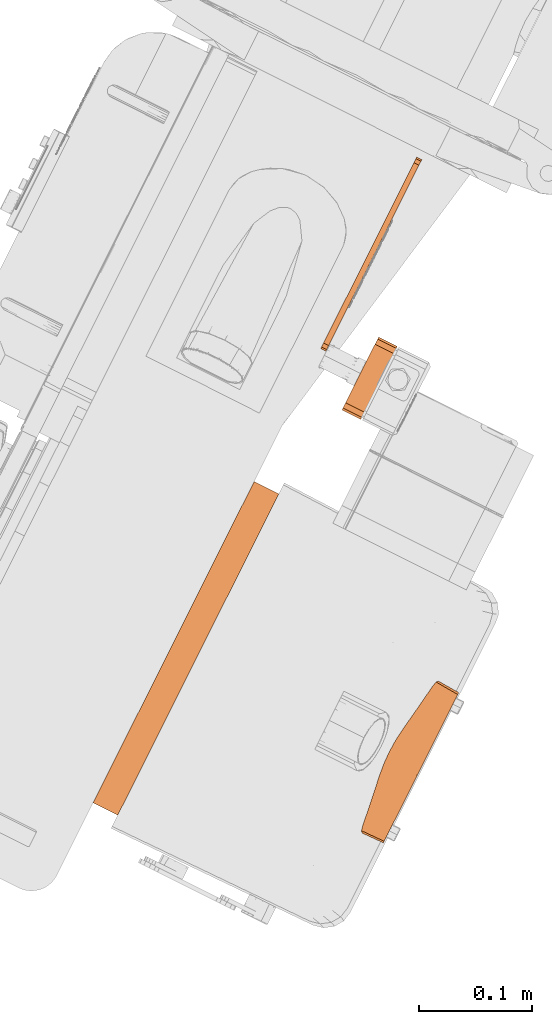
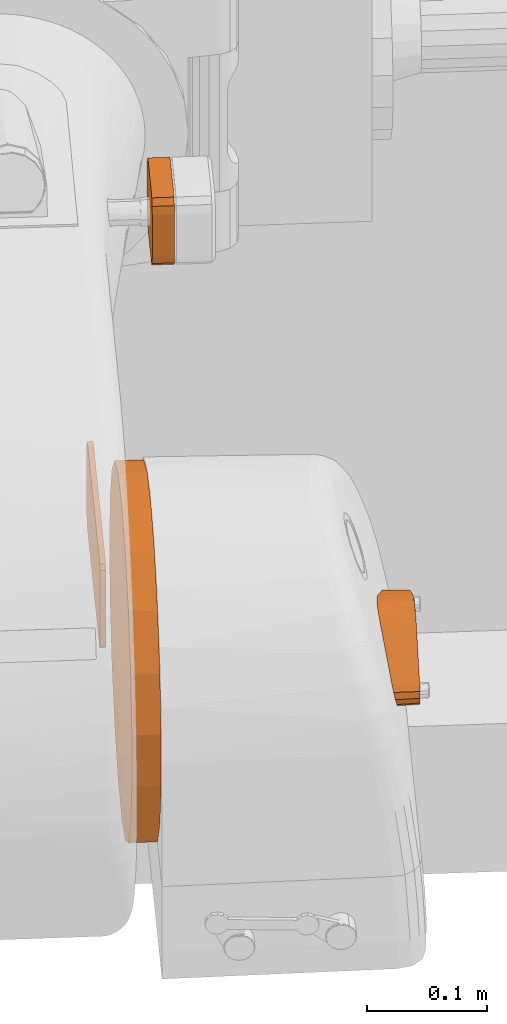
# One storey, part 186 of 206: 4 proxies.
"""IFC2X3 building model written with IfcOpenShell, lengths in metres."""

from ifc_helpers import new_model, si_unit, derived_unit, direction, frame, origin, place, context, subcontext, project, spatial, faceted_brep, source, transform, mapped, material, type_object, type_shapes, element, save


model = new_model("IFC2X3")

# Units and contexts
model_context = context("Model", 3, precision=5.2338327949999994e-05, world=origin(), true_north=direction((0.0, 1.0)))
body_context = subcontext(model_context, "Body", "Model", "MODEL_VIEW")
ifc_project = project(units=[si_unit("LENGTHUNIT", "METRE"), si_unit("AREAUNIT", "SQUARE_METRE"), si_unit("VOLUMEUNIT", "CUBIC_METRE"), si_unit("MASSUNIT", "GRAM", prefix="KILO"), si_unit("PLANEANGLEUNIT", "RADIAN"), derived_unit("THERMALTRANSMITTANCEUNIT", [(si_unit("MASSUNIT", "GRAM", prefix="KILO"), 1), (si_unit("THERMODYNAMICTEMPERATUREUNIT", "KELVIN"), -1), (si_unit("TIMEUNIT", "SECOND"), -3)])], contexts=[model_context])

# Site, building, storey
site_placement = place(None, frame((0.0, 0.0, 0.0), z_axis=(0.0, 0.0, 1.0), x_axis=(0.8939966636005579, -0.4480736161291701, 0.0)))
site = spatial("IfcSite", under=ifc_project, at=site_placement, Name="Default", CompositionType="ELEMENT")
building_placement = place(site_placement, origin())
building = spatial("IfcBuilding", under=site, at=building_placement, CompositionType="ELEMENT")
storey_placement = place(building_placement, origin())
storey = spatial("IfcBuildingStorey", under=building, at=storey_placement, Name="Erdgeschoss", CompositionType="ELEMENT", Elevation=0.0)

# Proxies
ifc_material_1 = material(Name="IfcSurfaceStyle #626231")
building_element_proxy_type_1 = type_object("IfcBuildingElementProxyType", Name="BuildingElementProxy 75:BuildingElementProxy 75", PredefinedType="NOTDEFINED", material=ifc_material_1)
shared_shape_1 = source(origin(), body_context, "Body", "Brep", [
    faceted_brep([(21.520847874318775, 4.238150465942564, 0.5322340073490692), (21.520847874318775, 4.134827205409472, 0.5407956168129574), (21.520847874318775, 4.2862793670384, 0.5533453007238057), (21.520847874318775, 4.090829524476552, 0.5695407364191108), (21.520847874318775, 4.324945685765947, 0.5889401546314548), (21.520847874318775, 4.058549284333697, 0.6110143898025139), (21.520847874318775, 4.349959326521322, 0.635161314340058), (21.520847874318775, 4.041484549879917, 0.6607222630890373), (21.520847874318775, 4.35860967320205, 0.6869999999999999), (21.520847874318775, 4.041484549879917, 0.7132777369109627), (21.520847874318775, 4.349959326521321, 0.7388386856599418), (21.520847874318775, 4.058549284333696, 0.7629856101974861), (21.520847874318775, 4.324945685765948, 0.7850598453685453), (21.520847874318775, 4.090829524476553, 0.8044592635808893), (21.520847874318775, 4.286279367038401, 0.820654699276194), (21.520847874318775, 4.134827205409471, 0.8332043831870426), (21.520847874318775, 4.238150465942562, 0.8417659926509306), (21.520847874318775, 4.185774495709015, 0.8461059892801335), (21.520847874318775, 4.185774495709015, 0.5278940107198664), (21.54519727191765, 4.349959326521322, 0.635161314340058), (21.54519727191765, 4.358609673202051, 0.687), (21.54519727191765, 4.349959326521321, 0.7388386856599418), (21.54519727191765, 4.324945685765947, 0.7850598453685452), (21.54519727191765, 4.286279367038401, 0.8206546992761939), (21.54519727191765, 4.238150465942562, 0.8417659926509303), (21.54519727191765, 4.185774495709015, 0.8461059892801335), (21.54519727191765, 4.134827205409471, 0.8332043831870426), (21.54519727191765, 4.090829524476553, 0.8044592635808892), (21.54519727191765, 4.058549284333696, 0.7629856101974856), (21.54519727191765, 4.041484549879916, 0.7132777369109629), (21.54519727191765, 4.041484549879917, 0.6607222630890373), (21.54519727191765, 4.058549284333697, 0.6110143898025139), (21.54519727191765, 4.090829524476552, 0.5695407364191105), (21.54519727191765, 4.134827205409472, 0.5407956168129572), (21.54519727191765, 4.185774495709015, 0.5278940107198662), (21.54519727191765, 4.238150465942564, 0.5322340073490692), (21.54519727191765, 4.2862793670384, 0.5533453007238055), (21.54519727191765, 4.324945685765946, 0.5889401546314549)], [[[0, 1, 2]], [[2, 1, 3]], [[2, 3, 4]], [[4, 3, 5]], [[4, 5, 6]], [[6, 5, 7]], [[6, 7, 8]], [[8, 7, 9]], [[8, 9, 10]], [[10, 9, 11]], [[10, 11, 12]], [[12, 11, 13]], [[12, 13, 14]], [[14, 13, 15]], [[14, 15, 16]], [[16, 15, 17]], [[0, 18, 1]], [[19, 8, 20]], [[20, 8, 10]], [[20, 10, 21]], [[21, 10, 12]], [[21, 12, 22]], [[22, 12, 14]], [[22, 14, 23]], [[23, 14, 16]], [[23, 16, 24]], [[24, 16, 17]], [[24, 17, 25]], [[25, 17, 15]], [[25, 15, 26]], [[26, 15, 13]], [[26, 13, 27]], [[27, 13, 11]], [[27, 11, 28]], [[28, 11, 9]], [[28, 9, 29]], [[29, 9, 7]], [[29, 7, 30]], [[30, 7, 5]], [[30, 5, 31]], [[31, 5, 3]], [[31, 3, 32]], [[32, 3, 1]], [[32, 1, 33]], [[33, 1, 18]], [[33, 18, 34]], [[34, 18, 0]], [[34, 0, 35]], [[35, 0, 2]], [[35, 2, 36]], [[36, 2, 4]], [[36, 4, 37]], [[37, 4, 6]], [[37, 6, 19]], [[19, 6, 8]], [[24, 26, 23]], [[23, 26, 27]], [[23, 27, 22]], [[22, 27, 28]], [[22, 28, 21]], [[21, 28, 29]], [[21, 29, 20]], [[20, 29, 30]], [[20, 30, 19]], [[19, 30, 31]], [[19, 31, 37]], [[37, 31, 32]], [[37, 32, 36]], [[36, 32, 33]], [[36, 33, 35]], [[35, 33, 34]], [[24, 25, 26]]]),
])
type_shapes(building_element_proxy_type_1, [shared_shape_1])
proxy_1_placement = place(storey_placement, origin())
element("IfcBuildingElementProxy", 1, at=proxy_1_placement, inside=storey, type_object=building_element_proxy_type_1, material=ifc_material_1, Name="BuildingElementProxy 75", context=body_context, shape_type="MappedRepresentation", body=[
    mapped(shared_shape_1, transform((0.0, 0.0, 0.0), scale=1.0)),
])
ifc_material_2 = material(Name="IfcSurfaceStyle #649647")
building_element_proxy_type_2 = type_object("IfcBuildingElementProxyType", Name="BuildingElementProxy 76:BuildingElementProxy 76", PredefinedType="NOTDEFINED", material=ifc_material_2)
shared_shape_2 = source(origin(), body_context, "Body", "Brep", [
    faceted_brep([(21.580421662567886, 4.507841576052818, 0.9683319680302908), (21.580421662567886, 4.463841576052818, 0.9683319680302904), (21.580421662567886, 4.521841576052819, 0.9543319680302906), (21.580421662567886, 4.449841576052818, 0.9543319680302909), (21.580421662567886, 4.521841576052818, 0.9103319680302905), (21.580421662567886, 4.449841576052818, 0.9103319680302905), (21.580421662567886, 4.507841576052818, 0.8963319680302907), (21.580421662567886, 4.463841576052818, 0.896331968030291), (21.580421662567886, 4.5199659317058, 0.961331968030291), (21.580421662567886, 4.514841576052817, 0.9664563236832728), (21.580421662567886, 4.456841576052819, 0.9664563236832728), (21.580421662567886, 4.4517172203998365, 0.9613319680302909), (21.580421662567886, 4.4517172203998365, 0.9033319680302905), (21.580421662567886, 4.456841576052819, 0.8982076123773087), (21.580421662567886, 4.514841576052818, 0.898207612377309), (21.580421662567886, 4.5199659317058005, 0.9033319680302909), (21.561921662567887, 4.449841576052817, 0.9543319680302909), (21.561921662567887, 4.4517172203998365, 0.961331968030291), (21.561921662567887, 4.456841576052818, 0.9664563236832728), (21.561921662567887, 4.463841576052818, 0.968331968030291), (21.561921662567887, 4.507841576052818, 0.9683319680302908), (21.561921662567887, 4.514841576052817, 0.9664563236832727), (21.561921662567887, 4.5199659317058, 0.9613319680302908), (21.561921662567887, 4.521841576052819, 0.9543319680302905), (21.561921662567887, 4.521841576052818, 0.9103319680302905), (21.56192166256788, 4.449841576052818, 0.9103319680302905), (21.56192166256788, 4.463841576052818, 0.896331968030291), (21.56192166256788, 4.507841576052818, 0.8963319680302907), (21.56192166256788, 4.5199659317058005, 0.9033319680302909), (21.56192166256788, 4.514841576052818, 0.898207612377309), (21.56192166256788, 4.456841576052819, 0.8982076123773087), (21.56192166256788, 4.4517172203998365, 0.9033319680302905)], [[[0, 1, 2]], [[2, 1, 3]], [[2, 3, 4]], [[4, 3, 5]], [[4, 5, 6]], [[6, 5, 7]], [[8, 9, 2]], [[2, 9, 0]], [[1, 10, 3]], [[3, 10, 11]], [[5, 12, 7]], [[7, 12, 13]], [[14, 15, 6]], [[6, 15, 4]], [[3, 11, 16]], [[16, 11, 17]], [[11, 10, 17]], [[17, 10, 18]], [[10, 1, 18]], [[18, 1, 19]], [[0, 20, 1]], [[1, 20, 19]], [[0, 9, 20]], [[20, 9, 21]], [[9, 8, 21]], [[21, 8, 22]], [[8, 2, 22]], [[22, 2, 23]], [[2, 4, 23]], [[23, 4, 24]], [[17, 19, 16]], [[16, 19, 20]], [[16, 20, 23]], [[23, 20, 22]], [[17, 18, 19]], [[20, 21, 22]], [[16, 23, 25]], [[25, 23, 24]], [[25, 24, 26]], [[26, 24, 27]], [[28, 29, 24]], [[24, 29, 27]], [[26, 30, 25]], [[25, 30, 31]], [[5, 3, 25]], [[25, 3, 16]], [[7, 13, 26]], [[26, 13, 30]], [[13, 12, 30]], [[30, 12, 31]], [[12, 5, 31]], [[31, 5, 25]], [[7, 26, 6]], [[6, 26, 27]], [[4, 15, 24]], [[24, 15, 28]], [[15, 14, 28]], [[28, 14, 29]], [[14, 6, 29]], [[29, 6, 27]]]),
])
type_shapes(building_element_proxy_type_2, [shared_shape_2])
proxy_2_placement = place(storey_placement, origin())
element("IfcBuildingElementProxy", 2, at=proxy_2_placement, inside=storey, type_object=building_element_proxy_type_2, material=ifc_material_2, Name="BuildingElementProxy 76", context=body_context, shape_type="MappedRepresentation", body=[
    mapped(shared_shape_2, transform((0.0, 0.0, 0.0), scale=1.0)),
])
ifc_material_3 = material(Name="IfcSurfaceStyle #623543")
building_element_proxy_type_3 = type_object("IfcBuildingElementProxyType", Name="BuildingElementProxy 79:BuildingElementProxy 79", PredefinedType="NOTDEFINED", material=ifc_material_3)
shared_shape_3 = source(origin(), body_context, "Body", "Brep", [
    faceted_brep([(21.525847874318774, 4.667873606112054, 0.5712080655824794), (21.525847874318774, 4.673373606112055, 0.569734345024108), (21.520847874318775, 4.667873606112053, 0.5712080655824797), (21.520847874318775, 4.673373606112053, 0.5697343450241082), (21.52584787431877, 4.677399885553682, 0.5657080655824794), (21.520847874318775, 4.677399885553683, 0.5657080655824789), (21.525847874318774, 4.6788736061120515, 0.5602080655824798), (21.520847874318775, 4.678873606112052, 0.5602080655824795), (21.52584787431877, 4.667873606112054, 0.48315455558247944), (21.52584787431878, 4.6788736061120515, 0.4941545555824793), (21.525847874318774, 4.677399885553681, 0.4886545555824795), (21.52584787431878, 4.500856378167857, 0.48315455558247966), (21.525847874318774, 4.500856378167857, 0.5712080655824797), (21.525847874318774, 4.489856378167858, 0.4941545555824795), (21.525847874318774, 4.489856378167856, 0.5602080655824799), (21.525847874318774, 4.49535637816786, 0.5697343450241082), (21.525847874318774, 4.491330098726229, 0.5657080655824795), (21.525847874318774, 4.491330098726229, 0.48865455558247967), (21.525847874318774, 4.495356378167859, 0.4846282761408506), (21.52584787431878, 4.673373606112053, 0.4846282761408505), (21.520847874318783, 4.500856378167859, 0.5712080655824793), (21.520847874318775, 4.678873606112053, 0.4941545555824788), (21.520847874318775, 4.677399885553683, 0.4886545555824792), (21.520847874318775, 4.673373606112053, 0.484628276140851), (21.520847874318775, 4.667873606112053, 0.4831545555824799), (21.520847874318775, 4.5008563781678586, 0.4831545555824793), (21.520847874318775, 4.495356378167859, 0.4846282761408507), (21.520847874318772, 4.491330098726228, 0.48865455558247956), (21.520847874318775, 4.489856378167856, 0.4941545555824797), (21.520847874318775, 4.489856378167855, 0.5602080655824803), (21.520847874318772, 4.491330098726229, 0.5657080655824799), (21.520847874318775, 4.495356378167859, 0.5697343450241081)], [[[0, 1, 2]], [[2, 1, 3]], [[1, 4, 3]], [[3, 4, 5]], [[4, 6, 5]], [[5, 6, 7]], [[4, 0, 6]], [[6, 0, 8]], [[6, 8, 9]], [[9, 8, 10]], [[4, 1, 0]], [[8, 0, 11]], [[11, 0, 12]], [[11, 12, 13]], [[13, 12, 14]], [[12, 15, 14]], [[14, 15, 16]], [[17, 18, 13]], [[13, 18, 11]], [[8, 19, 10]], [[0, 2, 12]], [[12, 2, 20]], [[6, 9, 7]], [[7, 9, 21]], [[9, 10, 21]], [[21, 10, 22]], [[10, 19, 22]], [[22, 19, 23]], [[19, 8, 23]], [[23, 8, 24]], [[11, 25, 8]], [[8, 25, 24]], [[11, 18, 25]], [[25, 18, 26]], [[18, 17, 26]], [[26, 17, 27]], [[17, 13, 27]], [[27, 13, 28]], [[13, 14, 28]], [[28, 14, 29]], [[14, 16, 29]], [[29, 16, 30]], [[16, 15, 30]], [[30, 15, 31]], [[15, 12, 31]], [[31, 12, 20]], [[3, 5, 2]], [[2, 5, 7]], [[2, 7, 21]], [[2, 21, 24]], [[24, 21, 22]], [[24, 22, 23]], [[2, 24, 20]], [[20, 24, 25]], [[20, 25, 29]], [[29, 25, 28]], [[25, 26, 28]], [[28, 26, 27]], [[30, 31, 29]], [[29, 31, 20]]]),
])
type_shapes(building_element_proxy_type_3, [shared_shape_3])
proxy_3_placement = place(storey_placement, origin())
element("IfcBuildingElementProxy", 3, at=proxy_3_placement, inside=storey, type_object=building_element_proxy_type_3, material=ifc_material_3, Name="BuildingElementProxy 79", context=body_context, shape_type="MappedRepresentation", body=[
    mapped(shared_shape_3, transform((0.0, 0.0, 0.0), scale=1.0)),
])
building_element_proxy_type_4 = type_object("IfcBuildingElementProxyType", Name="BuildingElementProxy 89:BuildingElementProxy 89", PredefinedType="NOTDEFINED", material=ifc_material_1)
shared_shape_4 = source(origin(), body_context, "Body", "Brep", [
    faceted_brep([(21.747271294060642, 4.267720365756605, 0.6716965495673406), (21.747272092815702, 4.130203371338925, 0.6716926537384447), (21.746336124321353, 4.272298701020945, 0.6762049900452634), (21.746334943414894, 4.125644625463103, 0.6762106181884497), (21.745011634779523, 4.27400904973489, 0.6824192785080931), (21.74501098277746, 4.123942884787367, 0.6824222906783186), (21.74364308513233, 4.272376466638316, 0.6886459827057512), (21.743643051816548, 4.125569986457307, 0.6886461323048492), (21.742615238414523, 4.267869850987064, 0.6932025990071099), (21.742613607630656, 4.1300592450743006, 0.6932097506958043), (21.73940067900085, 4.24455222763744, 0.706858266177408), (21.739379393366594, 4.15331429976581, 0.7069459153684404), (21.735995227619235, 4.2213277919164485, 0.720467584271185), (21.735952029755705, 4.176475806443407, 0.7206351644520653), (21.734777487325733, 4.21043233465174, 0.7251465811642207), (21.734755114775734, 4.187402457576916, 0.7252316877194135), (21.734359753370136, 4.19891272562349, 0.7267306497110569), (21.74686759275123, 4.270312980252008, 0.6736555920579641), (21.749920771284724, 4.244350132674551, 0.6583115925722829), (21.74992114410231, 4.153570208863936, 0.6583096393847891), (21.75238771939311, 4.220932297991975, 0.6448917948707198), (21.752387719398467, 4.1769846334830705, 0.6448917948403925), (21.753155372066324, 4.2101946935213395, 0.6404926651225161), (21.753155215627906, 4.187718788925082, 0.6404935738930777), (21.753404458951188, 4.198955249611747, 0.6390398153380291), (21.765739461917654, 4.130525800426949, 0.672251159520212), (21.76573946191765, 4.177217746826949, 0.6452955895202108), (21.76573946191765, 4.191408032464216, 0.640131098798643), (21.765739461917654, 4.206508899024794, 0.640131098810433), (21.765739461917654, 4.220699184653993, 0.6452955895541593), (21.765739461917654, 4.267399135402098, 0.672255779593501), (21.765739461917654, 4.271026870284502, 0.6754947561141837), (21.765739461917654, 4.2730214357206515, 0.6799301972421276), (21.76573946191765, 4.273037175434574, 0.6847934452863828), (21.765739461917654, 4.271071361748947, 0.6892417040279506), (21.765739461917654, 4.267464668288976, 0.6925040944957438), (21.765739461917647, 4.220801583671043, 0.7195720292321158), (21.76573946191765, 4.130467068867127, 0.6925127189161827), (21.76573946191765, 4.126211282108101, 0.6882137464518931), (21.765739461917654, 4.124666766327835, 0.6823650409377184), (21.765739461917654, 4.126245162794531, 0.676525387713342), (21.765739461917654, 4.177001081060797, 0.7197373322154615), (21.76573946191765, 4.206538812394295, 0.724927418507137), (21.765739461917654, 4.1913038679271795, 0.7249849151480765)], [[[0, 1, 2]], [[2, 1, 3]], [[2, 3, 4]], [[4, 3, 5]], [[4, 5, 6]], [[6, 5, 7]], [[6, 7, 8]], [[8, 7, 9]], [[8, 9, 10]], [[10, 9, 11]], [[10, 11, 12]], [[12, 11, 13]], [[12, 13, 14]], [[14, 13, 15]], [[14, 15, 16]], [[2, 17, 0]], [[0, 18, 1]], [[1, 18, 19]], [[18, 20, 19]], [[19, 20, 21]], [[20, 22, 21]], [[21, 22, 23]], [[22, 24, 23]], [[1, 19, 25]], [[25, 19, 26]], [[19, 21, 26]], [[21, 23, 26]], [[26, 23, 27]], [[23, 24, 27]], [[27, 24, 28]], [[24, 22, 28]], [[28, 22, 29]], [[22, 20, 29]], [[20, 18, 29]], [[29, 18, 30]], [[18, 0, 30]], [[0, 17, 30]], [[30, 17, 31]], [[17, 2, 31]], [[31, 2, 32]], [[2, 4, 32]], [[32, 4, 33]], [[4, 6, 33]], [[33, 6, 34]], [[6, 8, 34]], [[34, 8, 35]], [[8, 10, 35]], [[35, 10, 36]], [[10, 12, 36]], [[9, 7, 37]], [[37, 7, 38]], [[7, 5, 38]], [[38, 5, 39]], [[5, 3, 39]], [[39, 3, 40]], [[3, 1, 40]], [[40, 1, 25]], [[13, 11, 41]], [[41, 11, 37]], [[11, 9, 37]], [[12, 14, 36]], [[36, 14, 42]], [[14, 16, 42]], [[42, 16, 43]], [[16, 15, 43]], [[43, 15, 41]], [[15, 13, 41]], [[34, 35, 30]], [[30, 35, 36]], [[30, 36, 29]], [[29, 36, 28]], [[42, 26, 36]], [[36, 26, 27]], [[36, 27, 28]], [[42, 43, 26]], [[26, 43, 41]], [[26, 41, 25]], [[25, 41, 37]], [[25, 37, 38]], [[38, 39, 25]], [[25, 39, 40]], [[31, 32, 30]], [[30, 32, 33]], [[30, 33, 34]]]),
])
type_shapes(building_element_proxy_type_4, [shared_shape_4])
proxy_4_placement = place(storey_placement, origin())
element("IfcBuildingElementProxy", 4, at=proxy_4_placement, inside=storey, type_object=building_element_proxy_type_4, material=ifc_material_1, Name="BuildingElementProxy 89", context=body_context, shape_type="MappedRepresentation", body=[
    mapped(shared_shape_4, transform((0.0, 0.0, 0.0), scale=1.0)),
])

save(model, "model.ifc")
